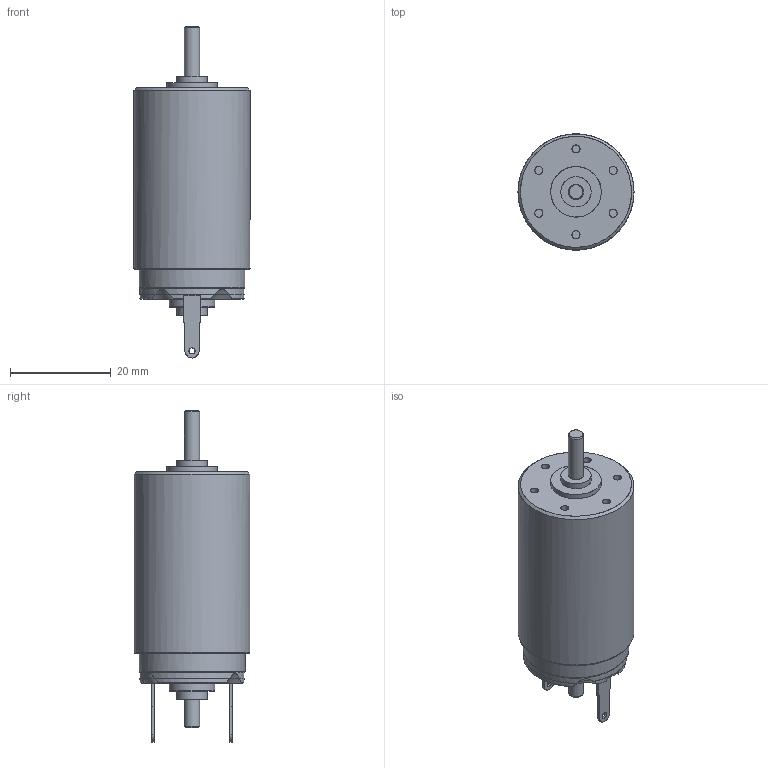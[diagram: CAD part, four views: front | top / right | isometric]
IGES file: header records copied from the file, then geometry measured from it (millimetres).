
Global section: file name: R:\a_public\Organisationsentwicklung\Aufgaben\CAD_Modelle_Vertrieb\Motor\2342.CR\2342.CR.igs; native system: NX V7.5; preprocessor: SIEMENS PLM Software NX 7.5; author: DR. FRITZ FAULHABER GmbH & Co. KG; organization: DR. FRITZ FAULHABER GmbH & Co. KG; date: 20121106.132751; units: millimetre
Bounding box: 23 x 22.97 x 65.8 mm (x, y, z)
Surface area: 4506 mm2 (no closed solid volume)
Topology: 0 solids, 0 shells, 121 faces, 896 edges, 853 vertices
Faces by surface type: bspline 121
